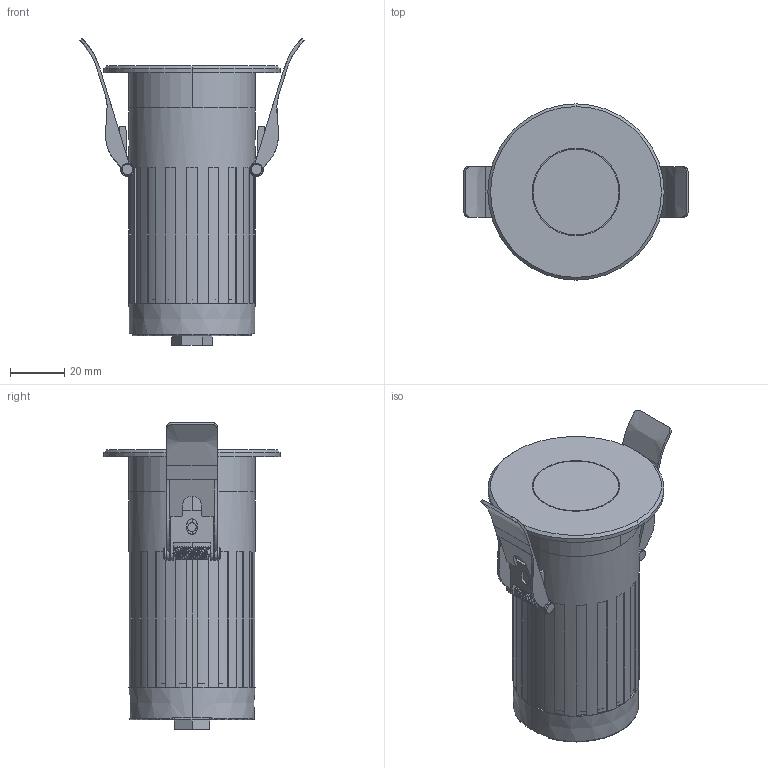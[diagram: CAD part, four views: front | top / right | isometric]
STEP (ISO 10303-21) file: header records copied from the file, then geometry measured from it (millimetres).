
FILE_DESCRIPTION((''),'2;1');
FILE_NAME('B2CAR0158__ASM','2025-03-12T',('Administrator'),(''),'CREO PARAMETRIC BY PTC INC, 2014190','CREO PARAMETRIC BY PTC INC, 2014190','');
FILE_SCHEMA(('CONFIG_CONTROL_DESIGN'));
Length unit declared in the file: millimetre
Products named in the file (22): 2C-A_6; 2CA-MZH_6; HOUGAI_7; 12A_1_114_6; 2I-0_6; O-RING_6; S_6; BOLI-0_6; LED_6; MSBR-4_6; 1E2CA_6; GUANGYUAN_ASM_6_ASM; YATAO_6; 005_6; CHANGJIA_10; XIAJIA_10; XIAOZI_8; TANGHUANG_6; THJIA_ASM_10_ASM; 2CA_ASM_6_ASM; ASM0003_ASM_1_ASM; B2CAR0158__ASM
Assembly tree (23 placements, depth 5):
  B2CAR0158__ASM
    ASM0003_ASM_1_ASM
      2CA_ASM_6_ASM  x2
        2C-A_6
        2CA-MZH_6
        HOUGAI_7
        12A_1_114_6
        2I-0_6
        O-RING_6
        S_6
        BOLI-0_6
        GUANGYUAN_ASM_6_ASM
          LED_6
          MSBR-4_6
          1E2CA_6
        YATAO_6
        005_6
        THJIA_ASM_10_ASM
          CHANGJIA_10
          XIAJIA_10
          XIAOZI_8
          TANGHUANG_6
Bounding box: 82.72 x 65 x 113.18 mm (x, y, z)
Volume: 198372.8 mm3; surface area: 151049 mm2
Topology: 36 solids, 36 shells, 922 faces, 2514 edges, 1694 vertices
Faces by surface type: plane 446, cylinder 336, cone 84, bspline 30, torus 16, extrusion 10
Entity records: 21638 total; most frequent: CARTESIAN_POINT 9369, DIRECTION 2607, ORIENTED_EDGE 2462, EDGE_CURVE 1231, AXIS2_PLACEMENT_3D 1016, VERTEX_POINT 829, VECTOR 575, LINE 570
